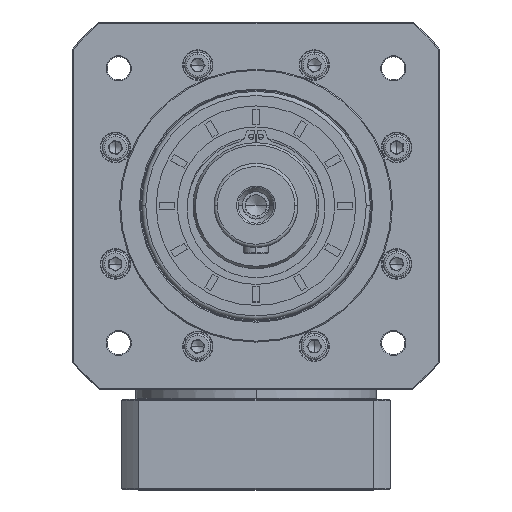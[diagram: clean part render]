
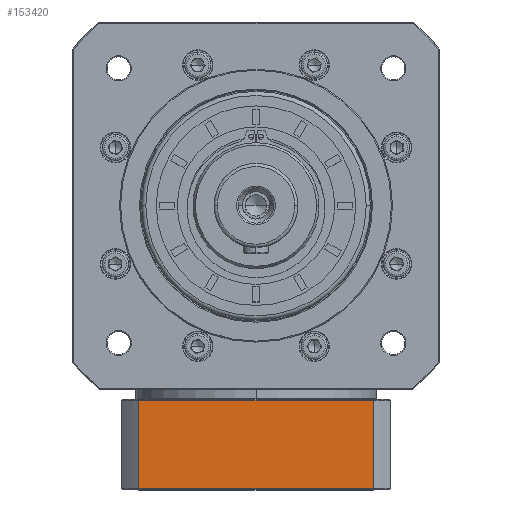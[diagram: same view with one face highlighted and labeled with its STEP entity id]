
A CAD part, top view. The second image highlights one B-rep face of the part: STEP entity #153420.
In plain terms, the highlighted planar face has unit normal (0, 0, 1).
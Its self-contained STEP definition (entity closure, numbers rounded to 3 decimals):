
#1585 = DIRECTION ( 'NONE',  ( -1., 0., 0. ) ) ;
#4244 = VERTEX_POINT ( 'NONE', #64187 ) ;
#12800 = EDGE_CURVE ( 'NONE', #51132, #155392, #82708, .T. ) ;
#13220 = DIRECTION ( 'NONE',  ( 0., -1., 0. ) ) ;
#20697 = EDGE_CURVE ( 'NONE', #4244, #51132, #143922, .T. ) ;
#22623 = ORIENTED_EDGE ( 'NONE', *, *, #20697, .F. ) ;
#22954 = LINE ( 'NONE', #153984, #143869 ) ;
#38667 = DIRECTION ( 'NONE',  ( 0., 0., -1. ) ) ;
#45348 = ORIENTED_EDGE ( 'NONE', *, *, #114060, .F. ) ;
#51132 = VERTEX_POINT ( 'NONE', #150085 ) ;
#57838 = VERTEX_POINT ( 'NONE', #150330 ) ;
#59445 = EDGE_CURVE ( 'NONE', #57838, #4244, #119106, .T. ) ;
#61853 = CARTESIAN_POINT ( 'NONE',  ( -251.711, -152.044, 90.941 ) ) ;
#63183 = EDGE_LOOP ( 'NONE', ( #22623, #104093, #45348, #133996 ) ) ;
#64187 = CARTESIAN_POINT ( 'NONE',  ( -139.836, -110.044, 90.941 ) ) ;
#65100 = CARTESIAN_POINT ( 'NONE',  ( -259.774, -110.044, 90.941 ) ) ;
#82708 = LINE ( 'NONE', #152398, #133226 ) ;
#90851 = DIRECTION ( 'NONE',  ( -1., 0., 0. ) ) ;
#104093 = ORIENTED_EDGE ( 'NONE', *, *, #59445, .F. ) ;
#111808 = CARTESIAN_POINT ( 'NONE',  ( -259.774, -152.544, 90.941 ) ) ;
#112865 = FACE_OUTER_BOUND ( 'NONE', #63183, .T. ) ;
#114060 = EDGE_CURVE ( 'NONE', #155392, #57838, #22954, .T. ) ;
#115381 = DIRECTION ( 'NONE',  ( 0., 1., 0. ) ) ;
#119106 = LINE ( 'NONE', #65100, #128760 ) ;
#128760 = VECTOR ( 'NONE', #138661, 1000. ) ;
#133226 = VECTOR ( 'NONE', #90851, 1000. ) ;
#133996 = ORIENTED_EDGE ( 'NONE', *, *, #12800, .F. ) ;
#136420 = CARTESIAN_POINT ( 'NONE',  ( -139.836, 142.871, 90.941 ) ) ;
#137341 = PLANE ( 'NONE',  #154777 ) ;
#138661 = DIRECTION ( 'NONE',  ( 1., 0., 0. ) ) ;
#143869 = VECTOR ( 'NONE', #115381, 1000. ) ;
#143922 = LINE ( 'NONE', #136420, #157522 ) ;
#150085 = CARTESIAN_POINT ( 'NONE',  ( -139.836, -152.044, 90.941 ) ) ;
#150330 = CARTESIAN_POINT ( 'NONE',  ( -251.711, -110.044, 90.941 ) ) ;
#152398 = CARTESIAN_POINT ( 'NONE',  ( -259.774, -152.044, 90.941 ) ) ;
#153420 = ADVANCED_FACE ( 'NONE', ( #112865 ), #137341, .F. ) ;
#153984 = CARTESIAN_POINT ( 'NONE',  ( -251.711, -152.544, 90.941 ) ) ;
#154777 = AXIS2_PLACEMENT_3D ( 'NONE', #111808, #38667, #1585 ) ;
#155392 = VERTEX_POINT ( 'NONE', #61853 ) ;
#157522 = VECTOR ( 'NONE', #13220, 1000. ) ;
